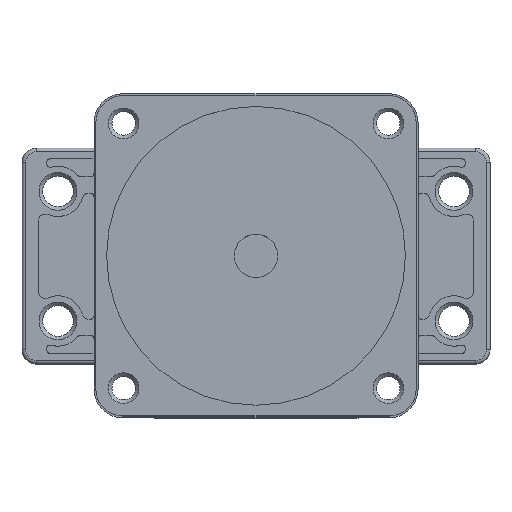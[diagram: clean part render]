
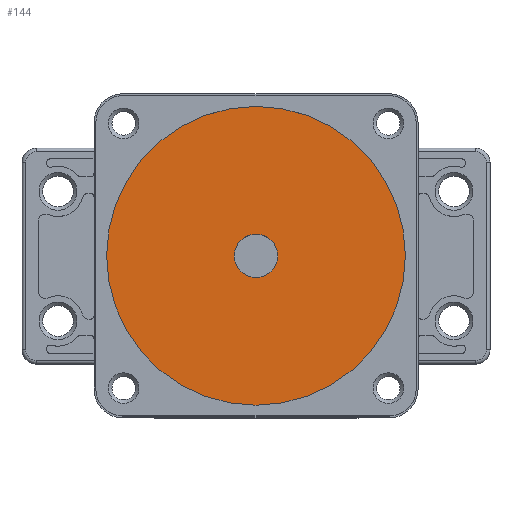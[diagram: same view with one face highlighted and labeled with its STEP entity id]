
A CAD part, top view. The second image highlights one B-rep face of the part: STEP entity #144.
In plain terms, the highlighted planar face has unit normal (0, 0, 1).
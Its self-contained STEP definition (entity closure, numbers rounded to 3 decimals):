
#73=CARTESIAN_POINT('',(41.5,0.,62.5));
#74=VERTEX_POINT('',#73);
#75=CARTESIAN_POINT('',(0.0,0.0,62.5));
#76=DIRECTION('',(0.0,0.0,1.0));
#77=DIRECTION('',(-1.0,0.0,0.0));
#78=AXIS2_PLACEMENT_3D('',#75,#76,#77);
#79=CIRCLE('',#78,41.5);
#80=EDGE_CURVE('',#74,#74,#79,.T.);
#101=CARTESIAN_POINT('',(6.05,0.,62.5));
#102=VERTEX_POINT('',#101);
#103=CARTESIAN_POINT('',(0.0,0.0,62.5));
#104=DIRECTION('',(0.0,0.0,-1.0));
#105=DIRECTION('',(-1.0,0.0,0.0));
#106=AXIS2_PLACEMENT_3D('',#103,#104,#105);
#107=CIRCLE('',#106,6.05);
#108=EDGE_CURVE('',#102,#102,#107,.T.);
#133=CARTESIAN_POINT('',(0.0,0.0,62.5));
#134=DIRECTION('',(0.0,0.0,-1.0));
#135=DIRECTION('',(-1.0,0.0,0.0));
#136=AXIS2_PLACEMENT_3D('',#133,#134,#135);
#137=PLANE('',#136);
#138=ORIENTED_EDGE('',*,*,#80,.T.);
#139=EDGE_LOOP('',(#138));
#140=FACE_OUTER_BOUND('',#139,.T.);
#141=ORIENTED_EDGE('',*,*,#108,.T.);
#142=EDGE_LOOP('',(#141));
#143=FACE_BOUND('',#142,.T.);
#144=ADVANCED_FACE('',(#140,#143),#137,.F.);
